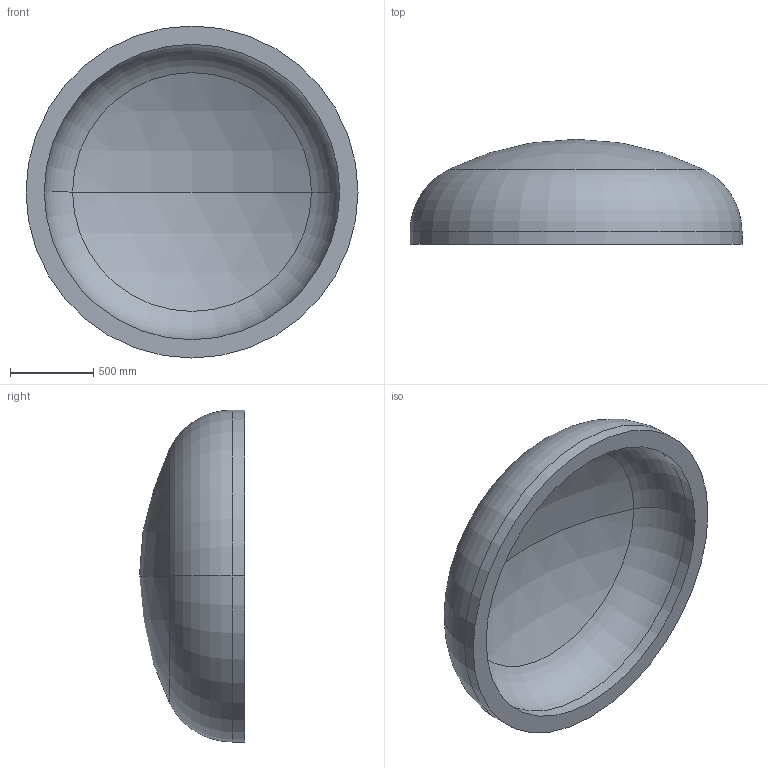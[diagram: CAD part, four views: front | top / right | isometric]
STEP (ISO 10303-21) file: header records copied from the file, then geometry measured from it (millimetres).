
FILE_DESCRIPTION (( 'STEP AP203' ), '1' );
FILE_NAME ('DIN 28013 Korbbogenform_-_Boden DIN 28013 - 2000 x 75 - I - s=110.step', '2016-07-01T14:11:55', ( '' ), ( '' ), 'SwSTEP 2.0', 'SolidWorks 2013', '' );
FILE_SCHEMA (( 'CONFIG_CONTROL_DESIGN' ));
Length unit declared in the file: millimetre
Products named in the file (1): DIN 28013 Korbbogenform_-_Boden DIN 28013 - 2000 x 75 - I - s=110
Bounding box: 2000 x 632.74 x 2000 mm (x, y, z)
Volume: 495666010.2 mm3; surface area: 9690586.2 mm2
Topology: 1 solids, 1 shells, 13 faces, 24 edges, 14 vertices
Faces by surface type: torus 4, cylinder 4, sphere 4, plane 1
Entity records: 407 total; most frequent: DIRECTION 72, CARTESIAN_POINT 52, ORIENTED_EDGE 48, AXIS2_PLACEMENT_3D 34, EDGE_CURVE 24, CIRCLE 20, EDGE_LOOP 14, VERTEX_POINT 14
